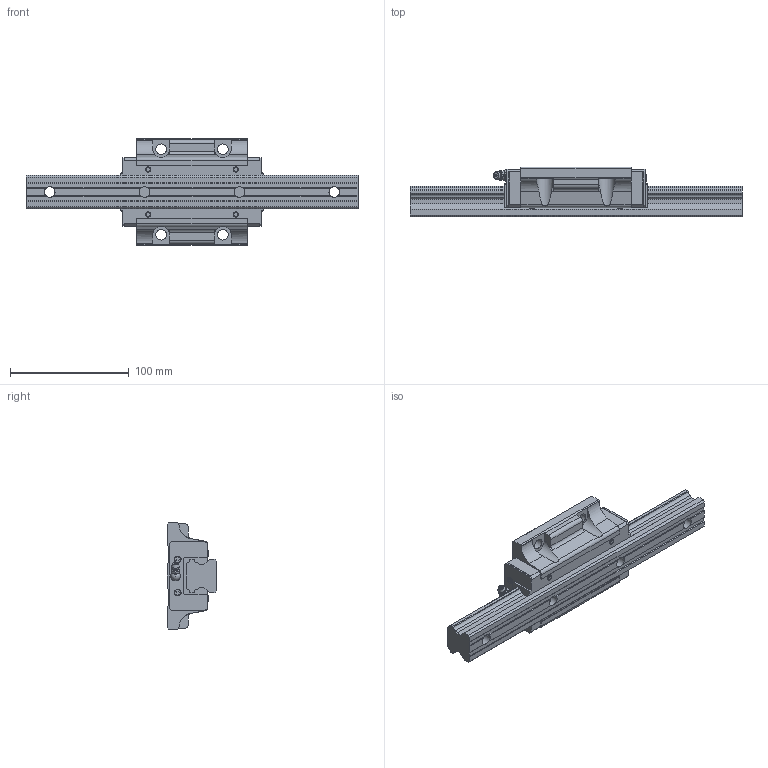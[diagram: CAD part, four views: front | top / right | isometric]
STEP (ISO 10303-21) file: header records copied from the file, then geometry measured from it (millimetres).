
FILE_DESCRIPTION(/* description */ ('STEP AP203'),/* implementation_level */ '2;1');
FILE_NAME(/* name */ 'HSR30M1LB1SS-280L_G20_0_B-M6F_79-3_0_0_0',/* time_stamp */ '2024-05-23T06:17:44+02:00',/* author */ ('License CC BY-ND 4.0'),/* organization */ ('CADENAS'),/* preprocessor_version */ 'ST-DEVELOPER v19.3',/* originating_system */ 'PARTsolutions',/* authorisation */ ' ');
FILE_SCHEMA (('CONFIG_CONTROL_DESIGN'));
Length unit declared in the file: millimetre
Products named in the file (4): HSR30M1LB1SS-280L_G20_0_B-M6F_79-3_0_0_0; HSR30M1LB128020 Rail; HSR30M1LBSSB-M6F Slider; hsr_ftht_B-M6F_grease_nipple_joint
Assembly tree (3 placements, depth 2):
  HSR30M1LB1SS-280L_G20_0_B-M6F_79-3_0_0_0
    HSR30M1LB128020 Rail
    HSR30M1LBSSB-M6F Slider
    hsr_ftht_B-M6F_grease_nipple_joint
Bounding box: 280 x 42 x 90 mm (x, y, z)
Volume: 384044.3 mm3; surface area: 73541.8 mm2
Topology: 3 solids, 3 shells, 290 faces, 790 edges, 519 vertices
Faces by surface type: plane 214, cylinder 50, cone 13, torus 10, sphere 3
Full cylindrical faces by diameter (mm): 4.37 x4, 4.917 x2, 5.7 x4, 6 x1, 8 x1, 9 x8, 14 x4
Entity records: 8989 total; most frequent: CARTESIAN_POINT 1697, ORIENTED_EDGE 1468, DIRECTION 1444, EDGE_CURVE 734, LINE 540, VECTOR 540, VERTEX_POINT 509, AXIS2_PLACEMENT_3D 452
